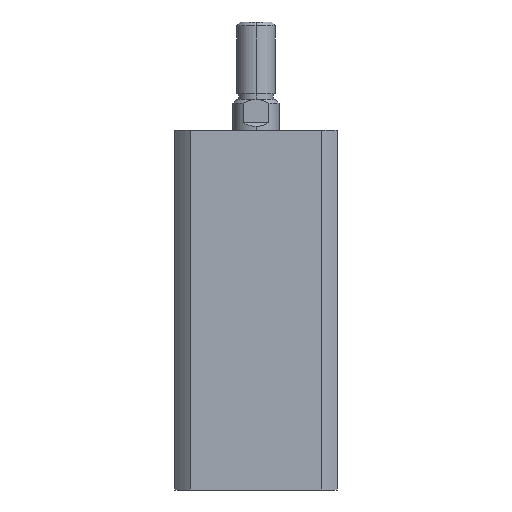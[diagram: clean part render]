
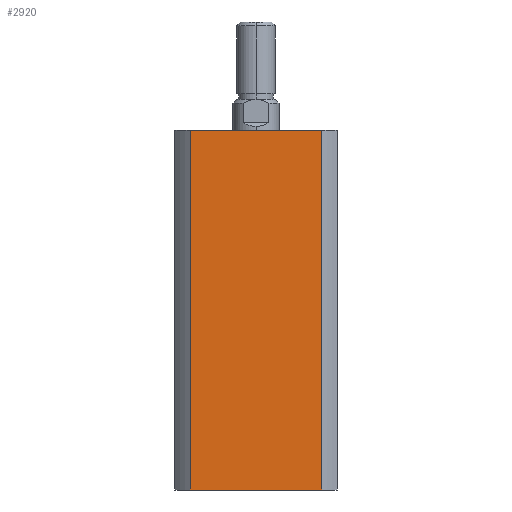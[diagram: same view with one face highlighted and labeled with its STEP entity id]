
A CAD part, left-side view. The second image highlights one B-rep face of the part: STEP entity #2920.
In plain terms, the highlighted planar face has unit normal (-1, 0, 0).
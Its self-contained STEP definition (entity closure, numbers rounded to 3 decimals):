
#707 = DIRECTION ( 'NONE',  ( 0., 1., 0. ) ) ;
#710 = DIRECTION ( 'NONE',  ( 1., 0., 0. ) ) ;
#715 = PLANE ( 'NONE',  #2641 ) ;
#725 = CARTESIAN_POINT ( 'NONE',  ( -21., 21., 93. ) ) ;
#988 = DIRECTION ( 'NONE',  ( 0., 0., 1. ) ) ;
#1018 = CARTESIAN_POINT ( 'NONE',  ( -21., 16.971, 93. ) ) ;
#1040 = DIRECTION ( 'NONE',  ( 0., 0., -1. ) ) ;
#1045 = CARTESIAN_POINT ( 'NONE',  ( -21., -16.971, 93. ) ) ;
#1476 = VERTEX_POINT ( 'NONE', #3244 ) ;
#1477 = VERTEX_POINT ( 'NONE', #3243 ) ;
#1480 = VERTEX_POINT ( 'NONE', #3240 ) ;
#1503 = VERTEX_POINT ( 'NONE', #3215 ) ;
#1876 = ORIENTED_EDGE ( 'NONE', *, *, #4159, .F. ) ;
#1877 = ORIENTED_EDGE ( 'NONE', *, *, #4112, .T. ) ;
#1884 = ORIENTED_EDGE ( 'NONE', *, *, #4158, .F. ) ;
#1885 = ORIENTED_EDGE ( 'NONE', *, *, #4150, .F. ) ;
#2216 = CARTESIAN_POINT ( 'NONE',  ( -21., 21., 93. ) ) ;
#2223 = DIRECTION ( 'NONE',  ( 0., -1., 0. ) ) ;
#2469 = CARTESIAN_POINT ( 'NONE',  ( -21., 21., 0. ) ) ;
#2474 = DIRECTION ( 'NONE',  ( 0., -1., 0. ) ) ;
#2641 = AXIS2_PLACEMENT_3D ( 'NONE', #725, #710, #707 ) ;
#2701 = LINE ( 'NONE', #1018, #2716 ) ;
#2704 = VECTOR ( 'NONE', #1040, 1000. ) ;
#2707 = LINE ( 'NONE', #1045, #2704 ) ;
#2716 = VECTOR ( 'NONE', #988, 1000. ) ;
#2920 = ADVANCED_FACE ( 'NONE', ( #5110 ), #715, .F. ) ;
#3215 = CARTESIAN_POINT ( 'NONE',  ( -21., -16.971, 93. ) ) ;
#3240 = CARTESIAN_POINT ( 'NONE',  ( -21., -16.971, 0. ) ) ;
#3243 = CARTESIAN_POINT ( 'NONE',  ( -21., 16.971, 0. ) ) ;
#3244 = CARTESIAN_POINT ( 'NONE',  ( -21., 16.971, 93. ) ) ;
#3794 = EDGE_LOOP ( 'NONE', ( #1884, #1885, #1876, #1877 ) ) ;
#4112 = EDGE_CURVE ( 'NONE', #1477, #1480, #4810, .T. ) ;
#4150 = EDGE_CURVE ( 'NONE', #1476, #1503, #4769, .T. ) ;
#4158 = EDGE_CURVE ( 'NONE', #1503, #1480, #2707, .T. ) ;
#4159 = EDGE_CURVE ( 'NONE', #1477, #1476, #2701, .T. ) ;
#4769 = LINE ( 'NONE', #2216, #4781 ) ;
#4781 = VECTOR ( 'NONE', #2223, 1000. ) ;
#4808 = VECTOR ( 'NONE', #2474, 1000. ) ;
#4810 = LINE ( 'NONE', #2469, #4808 ) ;
#5110 = FACE_OUTER_BOUND ( 'NONE', #3794, .T. ) ;
